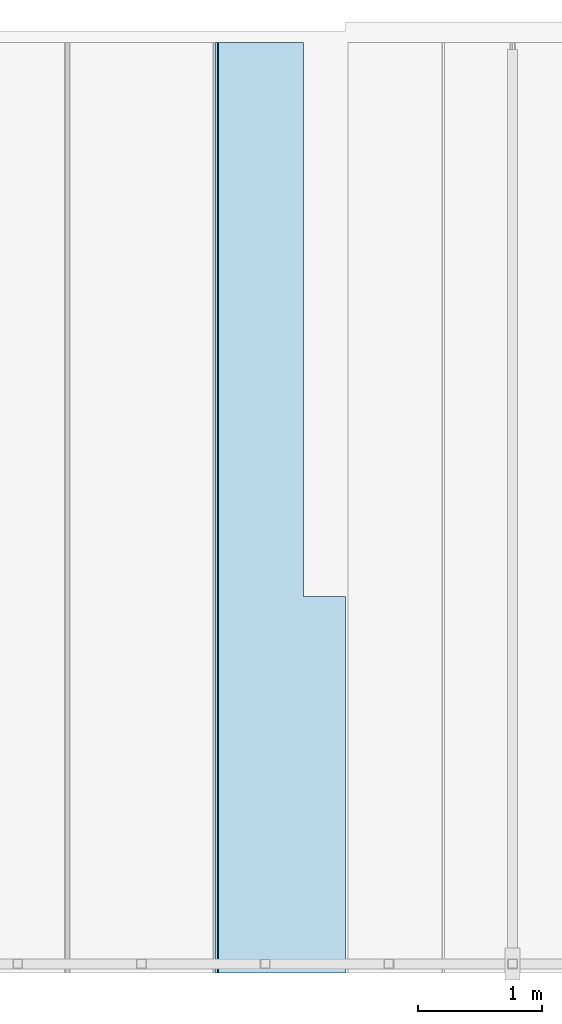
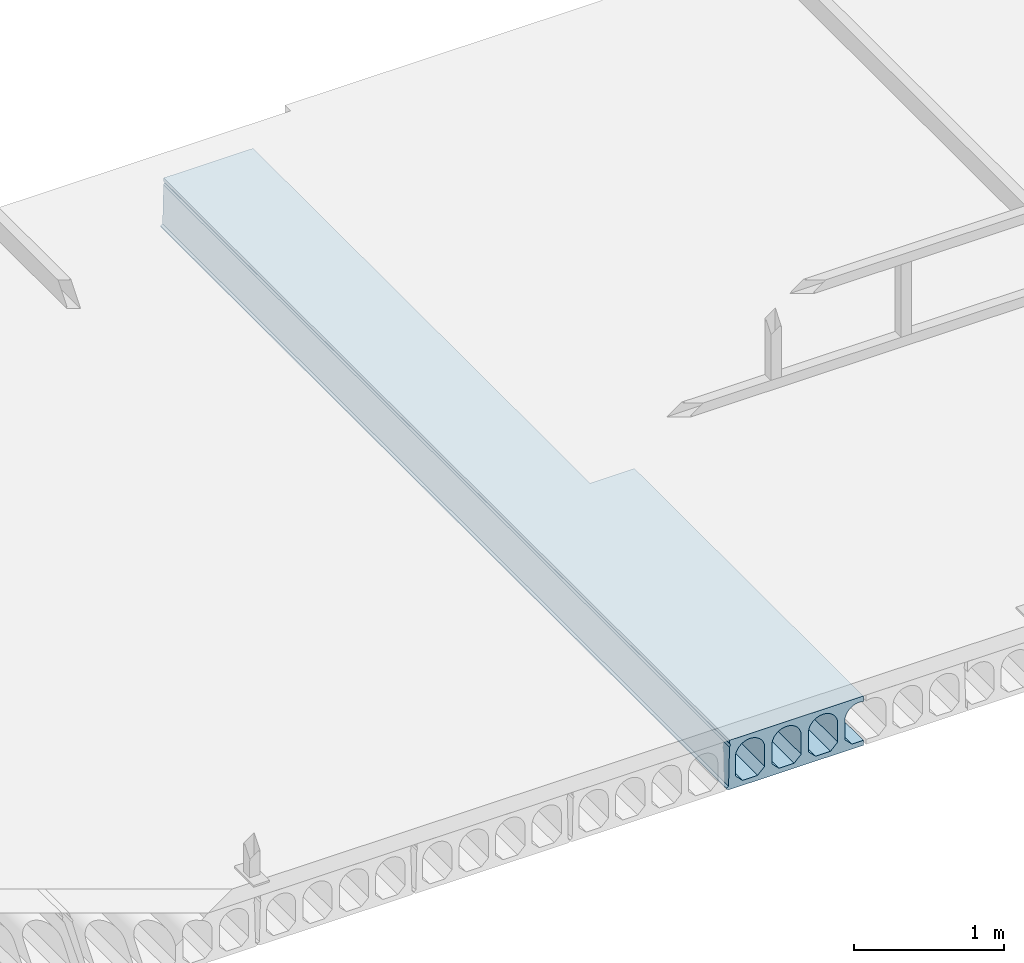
# One storey, part 14 of 20: 1 slab.
"""IFC2X3 building model written with IfcOpenShell, lengths in millimetres."""

import ifcopenshell
import ifcopenshell.guid

model = None  # the IFC model being written
_history = None  # IfcOwnerHistory: only IFC2X3 demands one
_inside = {}  # id of a spatial element -> (the spatial element, [elements in it])
_under = {}  # id of a project, library or spatial element -> (it, [spatial elements below it])
_declared = {}  # id of a project -> (the project, [libraries it declares])
_typed = {}  # id of a type object -> (the type object, [elements of that type])
_made_of = {}  # id of a material, layer set ... -> (it, [elements and type objects made of it])


def new_model(schema):
    """Start an empty IFC model of exactly this schema.

    Asked for "IFC4X3", IfcOpenShell would pick the latest addendum, in which some entities
    have other attributes; the version numbers below select the first issue.
    IFC2X3 requires an IfcOwnerHistory on every rooted entity: one is made here for all.
    """
    global model, _history
    if schema == "IFC4X3":
        model = ifcopenshell.file(schema_version=(4, 3, 0, 0))
    else:
        model = ifcopenshell.file(schema=schema)
    _inside.clear()
    _under.clear()
    _declared.clear()
    _typed.clear()
    _made_of.clear()
    _history = None
    if model.schema == "IFC2X3":
        org = make("IfcOrganization", Name="unknown")
        user = make(
            "IfcPersonAndOrganization",
            ThePerson=make("IfcPerson", FamilyName="unknown"),
            TheOrganization=org,
        )
        app = make(
            "IfcApplication",
            ApplicationDeveloper=org,
            Version="unknown",
            ApplicationFullName="unknown",
            ApplicationIdentifier="unknown",
        )
        _history = make(
            "IfcOwnerHistory",
            OwningUser=user,
            OwningApplication=app,
            ChangeAction="ADDED",
            CreationDate=0,
        )
    return model


def make(cls, **values):
    """One entity of the class cls with the attributes given. An attribute that is None is left unset."""
    return model.create_entity(
        cls, **{name: value for name, value in values.items() if value is not None}
    )


def entity(cls, *values):
    """Any entity or typed value of the class cls, its attributes in the order of the schema. None: left unset."""
    e = model.create_entity(cls)
    for i, value in enumerate(values):
        if value is not None:
            e[i] = value
    return e


def rooted(cls, **values):
    """An entity with a GlobalId (a new one), such as an element, a storey or a relation."""
    return make(cls, GlobalId=ifcopenshell.guid.new(), OwnerHistory=_history, **values)


def si_unit(unit_type, name, prefix=None):
    """IfcSIUnit, for example si_unit("LENGTHUNIT", "METRE", prefix="MILLI")."""
    return make("IfcSIUnit", UnitType=unit_type, Prefix=prefix, Name=name)


def converted_unit(unit_type, name, factor, base, dimensions=None, offset=None):
    """IfcConversionBasedUnit, such as the inch: factor (a typed value) times the base unit."""
    return make(
        "IfcConversionBasedUnit"
        if offset is None
        else "IfcConversionBasedUnitWithOffset",
        ConversionOffset=offset,
        Dimensions=None
        if dimensions is None
        else entity("IfcDimensionalExponents", *dimensions),
        UnitType=unit_type,
        Name=name,
        ConversionFactor=make(
            "IfcMeasureWithUnit", ValueComponent=factor, UnitComponent=base
        ),
    )


def derived_unit(unit_type, elements):
    """IfcDerivedUnit: a product of units, each with its exponent."""
    return make(
        "IfcDerivedUnit",
        Elements=[
            make("IfcDerivedUnitElement", Unit=unit, Exponent=power)
            for unit, power in elements
        ],
        UnitType=unit_type,
    )


def assignment(units):
    """IfcUnitAssignment: the units of a project."""
    return None if units is None else make("IfcUnitAssignment", Units=units)


def point(xyz):
    """IfcCartesianPoint."""
    return None if xyz is None else make("IfcCartesianPoint", Coordinates=xyz)


def direction(xyz):
    """IfcDirection."""
    return None if xyz is None else make("IfcDirection", DirectionRatios=xyz)


def frame(location, z_axis=None, x_axis=None):
    """IfcAxis2Placement3D, a coordinate frame: its origin and axes. An axis left out is left unset."""
    return make(
        "IfcAxis2Placement3D",
        Location=point(location),
        Axis=direction(z_axis),
        RefDirection=direction(x_axis),
    )


def origin_with_axes():
    """The frame at (0, 0, 0) with the z axis (0, 0, 1) and the x axis (1, 0, 0) written out."""
    return frame((0.0, 0.0, 0.0), z_axis=(0.0, 0.0, 1.0), x_axis=(1.0, 0.0, 0.0))


def place(relative_to, where):
    """IfcLocalPlacement: puts the frame where relative to a parent placement (None: the world)."""
    return make(
        "IfcLocalPlacement", PlacementRelTo=relative_to, RelativePlacement=where
    )


def context(
    kind, dimensions, precision=None, world=None, true_north=None, identifier=None
):
    """IfcGeometricRepresentationContext, for example the 3D "Model" context."""
    return make(
        "IfcGeometricRepresentationContext",
        ContextIdentifier=identifier,
        ContextType=kind,
        CoordinateSpaceDimension=dimensions,
        Precision=precision,
        WorldCoordinateSystem=world,
        TrueNorth=true_north,
    )


def subcontext(parent, identifier, kind, view, scale=None):
    """IfcGeometricRepresentationSubContext, for example "Body" below "Model"."""
    return make(
        "IfcGeometricRepresentationSubContext",
        ContextIdentifier=identifier,
        ContextType=kind,
        ParentContext=parent,
        TargetScale=scale,
        TargetView=view,
    )


def project(units=None, contexts=None):
    """IfcProject with its units and contexts."""
    return rooted(
        "IfcProject",
        Name="project",
        RepresentationContexts=contexts,
        UnitsInContext=assignment(units),
    )


def spatial(cls, under=None, at=None, **own):
    """A site, building, storey or space (cls), placed at a placement, below another one or the project."""
    s = rooted(cls, ObjectPlacement=at, **own)
    if under is not None:
        _under.setdefault(under.id(), (under, []))[1].append(s)
    return s


def faces_of(points, faces, orient=None, outer=None):
    """IfcFace entities. A face is a list of loops; a loop is a list of indices into points, from 0.

    orient and outer hold one flag for each loop. By default every Orientation is true, the
    first loop of a face is its IfcFaceOuterBound and the others are IfcFaceBound.
    """
    made = []
    for i, loops in enumerate(faces):
        bounds = []
        for j, loop in enumerate(loops):
            is_outer = j == 0 if outer is None else outer[i][j]
            bounds.append(
                make(
                    "IfcFaceOuterBound" if is_outer else "IfcFaceBound",
                    Bound=make("IfcPolyLoop", Polygon=[points[k] for k in loop]),
                    Orientation=True if orient is None else orient[i][j],
                )
            )
        made.append(make("IfcFace", Bounds=bounds))
    return made


def faceted_brep(points, faces, orient=None, outer=None, voids=None):
    """IfcFacetedBrep: a solid bounded by flat faces; with voids (closed shells), ...WithVoids."""
    shared = [point(p) for p in points]
    hull = make("IfcClosedShell", CfsFaces=faces_of(shared, faces, orient, outer))
    if voids is None:
        return make("IfcFacetedBrep", Outer=hull)
    return make(
        "IfcFacetedBrepWithVoids",
        Outer=hull,
        Voids=[
            make(cls, CfsFaces=faces_of(shared, fs, o, b)) for cls, fs, o, b in voids
        ],
    )


def shape(context_of_items, identifier, shape_type, items):
    """IfcShapeRepresentation: the items that make up one representation, for example the "Body"."""
    return make(
        "IfcShapeRepresentation",
        ContextOfItems=context_of_items,
        RepresentationIdentifier=identifier,
        RepresentationType=shape_type,
        Items=items,
    )


def made_of(thing, what):
    """Note that an element or type object is made of a material, layer set ...; save() writes the relation."""
    if what is not None:
        _made_of.setdefault(what.id(), (what, []))[1].append(thing)
    return thing


def type_object(cls, material=None, **own):
    """A type object (cls), such as IfcWallType, which elements share."""
    return made_of(rooted(cls, **own), material)


def element(
    cls,
    number,
    at=None,
    inside=None,
    cuts=None,
    type_object=None,
    material=None,
    context=None,
    identifier="Body",
    shape_type=None,
    held_by="IfcProductDefinitionShape",
    body=None,
    shapes=None,
    **own,
):
    """One element of the class cls, such as IfcWall. Its Tag is "e" and its number.

    at: its placement. inside: the storey or other place that contains it. cuts: it is an
    opening in that element (IfcRelVoidsElement). A single representation is given by context,
    identifier, shape_type and body (its items); several are given by shapes. held_by: the class
    of the entity that holds the representations. save() writes the other relations.
    """
    e = rooted(cls, Tag="e%d" % number, ObjectPlacement=at, **own)
    if body is not None:
        shapes = [shape(context, identifier, shape_type, body)]
    if shapes is not None:
        e.Representation = make(held_by, Representations=shapes)
    if inside is not None:
        _inside.setdefault(inside.id(), (inside, []))[1].append(e)
    if cuts is not None:
        rooted(
            "IfcRelVoidsElement", RelatingBuildingElement=cuts, RelatedOpeningElement=e
        )
    if type_object is not None:
        _typed.setdefault(type_object.id(), (type_object, []))[1].append(e)
    return made_of(e, material)


def aggregate(whole, parts):
    """IfcRelAggregates: a whole, such as a stair, and the parts it consists of."""
    return rooted("IfcRelAggregates", RelatingObject=whole, RelatedObjects=parts)


def save(model, path):
    """Write the relations noted so far, then the file.

    IfcRelAggregates (storeys below a building ...), IfcRelContainedInSpatialStructure (elements
    in a storey), IfcRelDefinesByType, IfcRelAssociatesMaterial and IfcRelDeclares: one each for
    every whole, place, type object, material and project.
    """
    for whole, parts in _under.values():
        aggregate(whole, parts)
    for where, things in _inside.values():
        rooted(
            "IfcRelContainedInSpatialStructure",
            RelatedElements=things,
            RelatingStructure=where,
        )
    for kind, things in _typed.values():
        rooted("IfcRelDefinesByType", RelatedObjects=things, RelatingType=kind)
    for what, things in _made_of.values():
        rooted("IfcRelAssociatesMaterial", RelatedObjects=things, RelatingMaterial=what)
    for by, libraries in _declared.values():
        rooted("IfcRelDeclares", RelatingContext=by, RelatedDefinitions=libraries)
    model.write(path)


model = new_model("IFC2X3")

# Units and contexts
model_context = context("Model", 3, precision=0.01, world=frame((0.0, 4.29681676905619e-09, 0.0)), true_north=direction((4.01073788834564e-13, 1.0)))
plan_context = context("Plan", 3, precision=0.01, world=frame((0.0, 4.29681676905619e-09, 0.0)), true_north=direction((4.01073788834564e-13, 1.0)))
body_context = subcontext(model_context, "Body", "Model", "MODEL_VIEW")
ifc_project = project(units=[converted_unit("PLANEANGLEUNIT", "DEGREE", entity("IfcPositiveLengthMeasure", 0.0174532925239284), si_unit("PLANEANGLEUNIT", "RADIAN"), dimensions=[0, 0, 0, 0, 0, 0, 0]), si_unit("AREAUNIT", "SQUARE_METRE"), si_unit("LENGTHUNIT", "METRE", prefix="MILLI"), si_unit("MASSUNIT", "GRAM", prefix="KILO"), si_unit("POWERUNIT", "WATT"), si_unit("PRESSUREUNIT", "PASCAL", prefix="KILO"), si_unit("FORCEUNIT", "NEWTON", prefix="KILO"), si_unit("ELECTRICVOLTAGEUNIT", "VOLT"), si_unit("ELECTRICCURRENTUNIT", "AMPERE"), si_unit("THERMODYNAMICTEMPERATUREUNIT", "DEGREE_CELSIUS"), si_unit("TIMEUNIT", "SECOND"), si_unit("VOLUMEUNIT", "CUBIC_METRE"), derived_unit("LINEARVELOCITYUNIT", [(si_unit("LENGTHUNIT", "METRE"), 1), (si_unit("TIMEUNIT", "SECOND"), -1)]), derived_unit("VOLUMETRICFLOWRATEUNIT", [(si_unit("VOLUMEUNIT", "CUBIC_METRE"), 1), (si_unit("TIMEUNIT", "SECOND"), -1)]), derived_unit("THERMALTRANSMITTANCEUNIT", [(si_unit("POWERUNIT", "WATT"), 1), (si_unit("THERMODYNAMICTEMPERATUREUNIT", "KELVIN"), -1), (si_unit("AREAUNIT", "SQUARE_METRE"), -1)]), derived_unit("SOUNDPRESSUREUNIT", [(si_unit("PRESSUREUNIT", "PASCAL"), 1)])], contexts=[model_context, plan_context])

# Site, building, storey
site_placement = place(None, frame((0.0, -4.29681676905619e-09, 0.0), z_axis=(0.0, 0.0, 1.0), x_axis=(1.0, 0.0, 0.0)))
site = spatial("IfcSite", under=ifc_project, at=site_placement, Name="Gardermoen", CompositionType="ELEMENT")
building_placement = place(site_placement, frame((0.0, 4.29681676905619e-09, 0.0), z_axis=(0.0, 0.0, 1.0), x_axis=(1.0, 0.0, 0.0)))
building = spatial("IfcBuilding", under=site, at=building_placement, Name="TS", CompositionType="ELEMENT")
storey_placement = place(building_placement, origin_with_axes())
storey = spatial("IfcBuildingStorey", under=building, at=storey_placement, Name="D", CompositionType="ELEMENT", Elevation=0.0)

# Slab
slab_type = type_object("IfcSlabType", Name="HD400", PredefinedType="NOTDEFINED")
slab_placement = place(storey_placement, frame((605200.000234, 405259.995625, 203600.0), z_axis=(0.0, 0.0, 1.0), x_axis=(0.0, -1.0, 0.0)))
element("IfcSlab", 1, at=slab_placement, inside=storey, type_object=slab_type, Name="HULLDEKKE", ObjectType="HD400", PredefinedType="FLOOR", context=body_context, shape_type="Brep", body=[
    faceted_brep([(7523.49562487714, 450.0, -200.0), (7523.49562487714, 450.0, -160.0), (4480.0, 450.0, -160.0), (4480.0, 450.0, -200.0), (0.0, 110.0, -160.0), (0.0, 110.0, -200.0), (4480.0, 110.0, -200.0), (4480.0, 110.0, -160.0), (0.0, 110.0, 200.0), (0.0, 110.0, 155.848115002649), (4480.0, 110.0, 155.848115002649), (4480.0, 110.0, 200.0), (4480.0, 112.382882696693, 156.55752991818), (4480.0, 121.483108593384, 158.465646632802), (4480.0, 130.709823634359, 159.615755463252), (4480.0, 140.0, 160.0), (4480.0, 149.290176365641, 159.615755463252), (4480.0, 158.516891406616, 158.465646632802), (4480.0, 167.617117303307, 156.55752991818), (4480.0, 176.528690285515, 153.904439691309), (4480.0, 185.190735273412, 150.524499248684), (4480.0, 193.544081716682, 146.440797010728), (4480.0, 201.531667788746, 141.681228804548), (4480.0, 209.098930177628, 136.278307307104), (4480.0, 216.194176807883, 130.268939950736), (4480.0, 222.768939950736, 123.694176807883), (4480.0, 228.778307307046, 116.598930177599), (4480.0, 234.181228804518, 109.031667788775), (4480.0, 238.940797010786, 101.044081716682), (4480.0, 243.024499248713, 92.6907352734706), (4480.0, 246.404439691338, 84.028690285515), (4480.0, 249.057529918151, 75.1171173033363), (4480.0, 250.965646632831, 66.0168914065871), (4480.0, 252.115755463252, 56.7901763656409), (4480.0, 252.5, 47.5), (4480.0, 252.5, -105.0), (4480.0, 197.5, -160.0), (4480.0, 362.5, -160.0), (4480.0, 307.5, -105.0), (4480.0, 307.5, 47.5), (4480.0, 307.884244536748, 56.7901763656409), (4480.0, 309.034353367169, 66.0168914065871), (4480.0, 310.942470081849, 75.1171173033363), (4480.0, 313.595560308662, 84.028690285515), (4480.0, 316.975500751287, 92.6907352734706), (4480.0, 321.059202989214, 101.044081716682), (4480.0, 325.818771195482, 109.031667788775), (4480.0, 331.221692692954, 116.598930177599), (4480.0, 337.231060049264, 123.694176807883), (4480.0, 343.805823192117, 130.268939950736), (4480.0, 350.901069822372, 136.278307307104), (4480.0, 358.468332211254, 141.681228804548), (4480.0, 366.455918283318, 146.440797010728), (4480.0, 374.809264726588, 150.524499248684), (4480.0, 383.471309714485, 153.904439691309), (4480.0, 392.382882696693, 156.55752991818), (4480.0, 401.483108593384, 158.465646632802), (4480.0, 410.709823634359, 159.615755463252), (4480.0, 420.0, 160.0), (4480.0, 429.290176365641, 159.615755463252), (4480.0, 438.516891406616, 158.465646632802), (4480.0, 447.617117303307, 156.55752991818), (4480.0, 450.0, 155.848115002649), (4480.0, 450.0, 200.0), (7523.49562487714, 450.0, 155.848115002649), (7523.49562487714, 450.0, 200.0), (7523.49562487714, 362.5, -160.0), (7523.49562487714, 307.5, -105.0), (7523.49562487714, 307.5, 47.5), (7523.49562487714, 307.884244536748, 56.7901763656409), (7523.49562487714, 309.034353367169, 66.0168914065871), (7523.49562487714, 310.942470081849, 75.1171173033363), (7523.49562487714, 313.595560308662, 84.028690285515), (7523.49562487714, 316.975500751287, 92.6907352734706), (7523.49562487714, 321.059202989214, 101.044081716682), (7523.49562487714, 325.818771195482, 109.031667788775), (7523.49562487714, 331.221692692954, 116.598930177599), (7523.49562487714, 337.231060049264, 123.694176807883), (7523.49562487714, 343.805823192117, 130.268939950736), (7523.49562487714, 350.901069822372, 136.278307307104), (7523.49562487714, 358.468332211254, 141.681228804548), (7523.49562487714, 366.455918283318, 146.440797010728), (7523.49562487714, 374.809264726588, 150.524499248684), (7523.49562487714, 383.471309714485, 153.904439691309), (7523.49562487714, 392.382882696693, 156.55752991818), (7523.49562487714, 401.483108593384, 158.465646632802), (7523.49562487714, 410.709823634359, 159.615755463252), (7523.49562487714, 420.0, 160.0), (7523.49562487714, 429.290176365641, 159.615755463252), (7523.49562487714, 438.516891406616, 158.465646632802), (7523.49562487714, 447.617117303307, 156.55752991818), (7523.49562487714, 82.5, -160.0), (7523.49562487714, 27.5, -105.0), (0.0, 27.5, -105.0), (0.0, 82.5, -160.0), (7523.49562487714, 27.5, 47.5), (0.0, 27.5, 47.5), (7523.49562487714, 27.8842445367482, 56.7901763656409), (0.0, 27.8842445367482, 56.7901763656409), (7523.49562487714, 29.0343533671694, 66.0168914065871), (0.0, 29.0343533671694, 66.0168914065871), (7523.49562487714, 30.942470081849, 75.1171173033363), (0.0, 30.942470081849, 75.1171173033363), (7523.49562487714, 33.5955603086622, 84.028690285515), (0.0, 33.5955603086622, 84.028690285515), (7523.49562487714, 36.9755007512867, 92.6907352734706), (0.0, 36.9755007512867, 92.6907352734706), (7523.49562487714, 41.0592029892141, 101.044081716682), (0.0, 41.0592029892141, 101.044081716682), (7523.49562487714, 45.8187711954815, 109.031667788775), (0.0, 45.8187711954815, 109.031667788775), (7523.49562487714, 51.2216926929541, 116.598930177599), (0.0, 51.2216926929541, 116.598930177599), (7523.49562487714, 57.2310600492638, 123.694176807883), (0.0, 57.2310600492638, 123.694176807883), (7523.49562487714, 63.8058231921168, 130.268939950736), (0.0, 63.8058231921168, 130.268939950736), (7523.49562487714, 70.9010698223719, 136.278307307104), (0.0, 70.9010698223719, 136.278307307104), (7523.49562487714, 78.4683322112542, 141.681228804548), (0.0, 78.4683322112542, 141.681228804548), (7523.49562487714, 86.4559182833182, 146.440797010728), (0.0, 86.4559182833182, 146.440797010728), (7523.49562487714, 94.8092647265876, 150.524499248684), (0.0, 94.8092647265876, 150.524499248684), (7523.49562487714, 103.471309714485, 153.904439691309), (0.0, 103.471309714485, 153.904439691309), (7523.49562487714, 112.382882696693, 156.55752991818), (7523.49562487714, 121.483108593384, 158.465646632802), (7523.49562487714, 130.709823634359, 159.615755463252), (7523.49562487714, 140.0, 160.0), (7523.49562487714, 149.290176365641, 159.615755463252), (7523.49562487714, 158.516891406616, 158.465646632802), (7523.49562487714, 167.617117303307, 156.55752991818), (7523.49562487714, 176.528690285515, 153.904439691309), (7523.49562487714, 185.190735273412, 150.524499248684), (7523.49562487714, 193.544081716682, 146.440797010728), (7523.49562487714, 201.531667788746, 141.681228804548), (7523.49562487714, 209.098930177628, 136.278307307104), (7523.49562487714, 216.194176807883, 130.268939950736), (7523.49562487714, 222.768939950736, 123.694176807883), (7523.49562487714, 228.778307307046, 116.598930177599), (7523.49562487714, 234.181228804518, 109.031667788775), (7523.49562487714, 238.940797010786, 101.044081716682), (7523.49562487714, 243.024499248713, 92.6907352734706), (7523.49562487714, 246.404439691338, 84.028690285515), (7523.49562487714, 249.057529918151, 75.1171173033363), (7523.49562487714, 250.965646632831, 66.0168914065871), (7523.49562487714, 252.115755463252, 56.7901763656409), (7523.49562487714, 252.5, 47.5), (7523.49562487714, 252.5, -105.0), (7523.49562487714, 197.5, -160.0), (7523.49562487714, -583.380004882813, -200.0), (0.0, -583.380004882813, -200.0), (7523.49562487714, -600.0, -190.0), (0.0, -600.0, -190.0), (7523.49562487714, -600.0, -180.0), (0.0, -600.0, -180.0), (7523.49562487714, -585.0, -170.0), (0.0, -585.0, -170.0), (7523.49562487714, -577.5, 145.0), (0.0, -577.5, 145.0), (7523.49562487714, -570.0, 160.0), (0.0, -570.0, 160.0), (7523.49562487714, -577.5, 175.0), (0.0, -577.5, 175.0), (7523.49562487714, -577.5, 200.0), (0.0, -577.5, 200.0), (7523.49562487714, -27.5, -105.0), (7523.49562487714, -82.5, -160.0), (0.0, -82.5, -160.0), (0.0, -27.5, -105.0), (7523.49562487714, -27.5, 47.5), (0.0, -27.5, 47.5), (7523.49562487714, -27.8842445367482, 56.7901763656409), (0.0, -27.8842445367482, 56.7901763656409), (7523.49562487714, -29.0343533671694, 66.0168914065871), (0.0, -29.0343533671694, 66.0168914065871), (7523.49562487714, -30.942470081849, 75.1171173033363), (0.0, -30.942470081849, 75.1171173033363), (7523.49562487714, -33.5955603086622, 84.028690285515), (0.0, -33.5955603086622, 84.028690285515), (7523.49562487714, -36.9755007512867, 92.6907352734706), (0.0, -36.9755007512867, 92.6907352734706), (7523.49562487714, -41.0592029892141, 101.044081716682), (0.0, -41.0592029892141, 101.044081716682), (7523.49562487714, -45.8187711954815, 109.031667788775), (0.0, -45.8187711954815, 109.031667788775), (7523.49562487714, -51.2216926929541, 116.598930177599), (0.0, -51.2216926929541, 116.598930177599), (7523.49562487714, -57.2310600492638, 123.694176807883), (0.0, -57.2310600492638, 123.694176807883), (7523.49562487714, -63.8058231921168, 130.268939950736), (0.0, -63.8058231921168, 130.268939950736), (7523.49562487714, -70.9010698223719, 136.278307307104), (0.0, -70.9010698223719, 136.278307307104), (7523.49562487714, -78.4683322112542, 141.681228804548), (0.0, -78.4683322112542, 141.681228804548), (7523.49562487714, -86.4559182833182, 146.440797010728), (0.0, -86.4559182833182, 146.440797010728), (7523.49562487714, -94.8092647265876, 150.524499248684), (0.0, -94.8092647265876, 150.524499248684), (7523.49562487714, -103.471309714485, 153.904439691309), (0.0, -103.471309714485, 153.904439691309), (7523.49562487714, -112.382882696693, 156.55752991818), (0.0, -112.382882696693, 156.55752991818), (7523.49562487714, -121.483108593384, 158.465646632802), (0.0, -121.483108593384, 158.465646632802), (7523.49562487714, -130.709823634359, 159.615755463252), (0.0, -130.709823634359, 159.615755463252), (7523.49562487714, -140.0, 160.0), (0.0, -140.0, 160.0), (7523.49562487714, -149.290176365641, 159.615755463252), (0.0, -149.290176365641, 159.615755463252), (7523.49562487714, -158.516891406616, 158.465646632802), (0.0, -158.516891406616, 158.465646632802), (7523.49562487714, -167.617117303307, 156.55752991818), (0.0, -167.617117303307, 156.55752991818), (7523.49562487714, -176.528690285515, 153.904439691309), (0.0, -176.528690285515, 153.904439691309), (7523.49562487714, -185.190735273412, 150.524499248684), (0.0, -185.190735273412, 150.524499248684), (7523.49562487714, -193.544081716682, 146.440797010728), (0.0, -193.544081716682, 146.440797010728), (7523.49562487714, -201.531667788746, 141.681228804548), (0.0, -201.531667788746, 141.681228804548), (7523.49562487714, -209.098930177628, 136.278307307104), (0.0, -209.098930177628, 136.278307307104), (7523.49562487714, -216.194176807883, 130.268939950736), (0.0, -216.194176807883, 130.268939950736), (7523.49562487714, -222.768939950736, 123.694176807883), (0.0, -222.768939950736, 123.694176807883), (7523.49562487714, -228.778307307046, 116.598930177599), (0.0, -228.778307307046, 116.598930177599), (7523.49562487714, -234.181228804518, 109.031667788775), (0.0, -234.181228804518, 109.031667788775), (7523.49562487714, -238.940797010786, 101.044081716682), (0.0, -238.940797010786, 101.044081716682), (7523.49562487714, -243.024499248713, 92.6907352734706), (0.0, -243.024499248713, 92.6907352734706), (7523.49562487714, -246.404439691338, 84.028690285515), (0.0, -246.404439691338, 84.028690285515), (7523.49562487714, -249.057529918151, 75.1171173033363), (0.0, -249.057529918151, 75.1171173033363), (7523.49562487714, -250.965646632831, 66.0168914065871), (0.0, -250.965646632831, 66.0168914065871), (7523.49562487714, -252.115755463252, 56.7901763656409), (0.0, -252.115755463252, 56.7901763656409), (7523.49562487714, -252.5, 47.5), (0.0, -252.5, 47.5), (7523.49562487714, -252.5, -105.0), (0.0, -252.5, -105.0), (7523.49562487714, -197.5, -160.0), (0.0, -197.5, -160.0), (0.0, -362.5, -160.0), (0.0, -477.5, -160.0), (0.0, -532.5, -105.0), (0.0, -532.5, 47.5), (0.0, -532.115755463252, 56.7901763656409), (0.0, -530.965646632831, 66.0168914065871), (0.0, -529.057529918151, 75.1171173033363), (0.0, -526.404439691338, 84.028690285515), (0.0, -523.024499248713, 92.6907352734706), (0.0, -518.940797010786, 101.044081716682), (0.0, -514.181228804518, 109.031667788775), (0.0, -508.778307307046, 116.598930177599), (0.0, -502.768939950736, 123.694176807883), (0.0, -496.194176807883, 130.268939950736), (0.0, -489.098930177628, 136.278307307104), (0.0, -481.531667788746, 141.681228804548), (0.0, -473.544081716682, 146.440797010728), (0.0, -465.190735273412, 150.524499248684), (0.0, -456.528690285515, 153.904439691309), (0.0, -447.617117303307, 156.55752991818), (0.0, -438.516891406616, 158.465646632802), (0.0, -429.290176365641, 159.615755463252), (0.0, -420.0, 160.0), (0.0, -410.709823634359, 159.615755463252), (0.0, -401.483108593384, 158.465646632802), (0.0, -392.382882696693, 156.55752991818), (0.0, -383.471309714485, 153.904439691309), (0.0, -374.809264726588, 150.524499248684), (0.0, -366.455918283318, 146.440797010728), (0.0, -358.468332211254, 141.681228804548), (0.0, -350.901069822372, 136.278307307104), (0.0, -343.805823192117, 130.268939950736), (0.0, -337.231060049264, 123.694176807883), (0.0, -331.221692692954, 116.598930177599), (0.0, -325.818771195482, 109.031667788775), (0.0, -321.059202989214, 101.044081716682), (0.0, -316.975500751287, 92.6907352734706), (0.0, -313.595560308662, 84.028690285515), (0.0, -310.942470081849, 75.1171173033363), (0.0, -309.034353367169, 66.0168914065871), (0.0, -307.884244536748, 56.7901763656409), (0.0, -307.5, 47.5), (0.0, -307.5, -105.0), (7523.49562487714, -307.5, -105.0), (7523.49562487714, -362.5, -160.0), (7523.49562487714, -307.5, 47.5), (7523.49562487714, -307.884244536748, 56.7901763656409), (7523.49562487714, -309.034353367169, 66.0168914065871), (7523.49562487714, -310.942470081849, 75.1171173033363), (7523.49562487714, -313.595560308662, 84.028690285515), (7523.49562487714, -316.975500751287, 92.6907352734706), (7523.49562487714, -321.059202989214, 101.044081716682), (7523.49562487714, -325.818771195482, 109.031667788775), (7523.49562487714, -331.221692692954, 116.598930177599), (7523.49562487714, -337.231060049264, 123.694176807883), (7523.49562487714, -343.805823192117, 130.268939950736), (7523.49562487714, -350.901069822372, 136.278307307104), (7523.49562487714, -358.468332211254, 141.681228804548), (7523.49562487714, -366.455918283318, 146.440797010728), (7523.49562487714, -374.809264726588, 150.524499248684), (7523.49562487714, -383.471309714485, 153.904439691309), (7523.49562487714, -392.382882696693, 156.55752991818), (7523.49562487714, -401.483108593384, 158.465646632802), (7523.49562487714, -410.709823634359, 159.615755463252), (7523.49562487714, -420.0, 160.0), (7523.49562487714, -429.290176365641, 159.615755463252), (7523.49562487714, -438.516891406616, 158.465646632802), (7523.49562487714, -447.617117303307, 156.55752991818), (7523.49562487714, -456.528690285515, 153.904439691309), (7523.49562487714, -465.190735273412, 150.524499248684), (7523.49562487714, -473.544081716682, 146.440797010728), (7523.49562487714, -481.531667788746, 141.681228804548), (7523.49562487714, -489.098930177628, 136.278307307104), (7523.49562487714, -496.194176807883, 130.268939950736), (7523.49562487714, -502.768939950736, 123.694176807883), (7523.49562487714, -508.778307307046, 116.598930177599), (7523.49562487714, -514.181228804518, 109.031667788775), (7523.49562487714, -518.940797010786, 101.044081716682), (7523.49562487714, -523.024499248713, 92.6907352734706), (7523.49562487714, -526.404439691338, 84.028690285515), (7523.49562487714, -529.057529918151, 75.1171173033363), (7523.49562487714, -530.965646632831, 66.0168914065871), (7523.49562487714, -532.115755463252, 56.7901763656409), (7523.49562487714, -532.5, 47.5), (7523.49562487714, -532.5, -105.0), (7523.49562487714, -477.5, -160.0)], [[[0, 1, 2, 3]], [[4, 5, 6, 7]], [[8, 9, 10, 11]], [[11, 10, 12, 13, 14, 15, 16, 17, 18, 19, 20, 21, 22, 23, 24, 25, 26, 27, 28, 29, 30, 31, 32, 33, 34, 35, 36, 7, 6, 3, 2, 37, 38, 39, 40, 41, 42, 43, 44, 45, 46, 47, 48, 49, 50, 51, 52, 53, 54, 55, 56, 57, 58, 59, 60, 61, 62, 63]], [[64, 65, 63, 62]], [[1, 66, 37, 2]], [[66, 67, 38, 37]], [[67, 68, 39, 38]], [[68, 69, 40, 39]], [[69, 70, 41, 40]], [[70, 71, 42, 41]], [[71, 72, 43, 42]], [[72, 73, 44, 43]], [[73, 74, 45, 44]], [[74, 75, 46, 45]], [[75, 76, 47, 46]], [[76, 77, 48, 47]], [[77, 78, 49, 48]], [[78, 79, 50, 49]], [[79, 80, 51, 50]], [[80, 81, 52, 51]], [[81, 82, 53, 52]], [[82, 83, 54, 53]], [[83, 84, 55, 54]], [[84, 85, 56, 55]], [[85, 86, 57, 56]], [[86, 87, 58, 57]], [[87, 88, 59, 58]], [[88, 89, 60, 59]], [[89, 90, 61, 60]], [[90, 64, 62, 61]], [[91, 92, 93, 94]], [[92, 95, 96, 93]], [[95, 97, 98, 96]], [[97, 99, 100, 98]], [[99, 101, 102, 100]], [[101, 103, 104, 102]], [[103, 105, 106, 104]], [[105, 107, 108, 106]], [[107, 109, 110, 108]], [[109, 111, 112, 110]], [[111, 113, 114, 112]], [[113, 115, 116, 114]], [[115, 117, 118, 116]], [[117, 119, 120, 118]], [[119, 121, 122, 120]], [[121, 123, 124, 122]], [[123, 125, 126, 124]], [[125, 127, 12, 10, 9, 126]], [[127, 128, 13, 12]], [[128, 129, 14, 13]], [[129, 130, 15, 14]], [[130, 131, 16, 15]], [[131, 132, 17, 16]], [[132, 133, 18, 17]], [[133, 134, 19, 18]], [[134, 135, 20, 19]], [[135, 136, 21, 20]], [[136, 137, 22, 21]], [[137, 138, 23, 22]], [[138, 139, 24, 23]], [[139, 140, 25, 24]], [[140, 141, 26, 25]], [[141, 142, 27, 26]], [[142, 143, 28, 27]], [[143, 144, 29, 28]], [[144, 145, 30, 29]], [[145, 146, 31, 30]], [[146, 147, 32, 31]], [[147, 148, 33, 32]], [[148, 149, 34, 33]], [[149, 150, 35, 34]], [[150, 151, 36, 35]], [[151, 91, 94, 4, 7, 36]], [[152, 0, 3, 6, 5, 153]], [[154, 152, 153, 155]], [[156, 154, 155, 157]], [[158, 156, 157, 159]], [[160, 158, 159, 161]], [[162, 160, 161, 163]], [[164, 162, 163, 165]], [[166, 164, 165, 167]], [[65, 166, 167, 8, 11, 63]], [[168, 169, 170, 171]], [[172, 168, 171, 173]], [[174, 172, 173, 175]], [[176, 174, 175, 177]], [[178, 176, 177, 179]], [[180, 178, 179, 181]], [[182, 180, 181, 183]], [[184, 182, 183, 185]], [[186, 184, 185, 187]], [[188, 186, 187, 189]], [[190, 188, 189, 191]], [[192, 190, 191, 193]], [[194, 192, 193, 195]], [[196, 194, 195, 197]], [[198, 196, 197, 199]], [[200, 198, 199, 201]], [[202, 200, 201, 203]], [[204, 202, 203, 205]], [[206, 204, 205, 207]], [[208, 206, 207, 209]], [[210, 208, 209, 211]], [[212, 210, 211, 213]], [[214, 212, 213, 215]], [[216, 214, 215, 217]], [[218, 216, 217, 219]], [[220, 218, 219, 221]], [[222, 220, 221, 223]], [[224, 222, 223, 225]], [[226, 224, 225, 227]], [[228, 226, 227, 229]], [[230, 228, 229, 231]], [[232, 230, 231, 233]], [[234, 232, 233, 235]], [[236, 234, 235, 237]], [[238, 236, 237, 239]], [[240, 238, 239, 241]], [[242, 240, 241, 243]], [[244, 242, 243, 245]], [[246, 244, 245, 247]], [[248, 246, 247, 249]], [[250, 248, 249, 251]], [[252, 250, 251, 253]], [[169, 252, 253, 170]], [[9, 8, 167, 165, 163, 161, 159, 157, 155, 153, 5, 4, 94, 93, 96, 98, 100, 102, 104, 106, 108, 110, 112, 114, 116, 118, 120, 122, 124, 126], [170, 253, 251, 249, 247, 245, 243, 241, 239, 237, 235, 233, 231, 229, 227, 225, 223, 221, 219, 217, 215, 213, 211, 209, 207, 205, 203, 201, 199, 197, 195, 193, 191, 189, 187, 185, 183, 181, 179, 177, 175, 173, 171], [254, 255, 256, 257, 258, 259, 260, 261, 262, 263, 264, 265, 266, 267, 268, 269, 270, 271, 272, 273, 274, 275, 276, 277, 278, 279, 280, 281, 282, 283, 284, 285, 286, 287, 288, 289, 290, 291, 292, 293, 294, 295, 296]], [[297, 298, 254, 296]], [[299, 297, 296, 295]], [[300, 299, 295, 294]], [[301, 300, 294, 293]], [[302, 301, 293, 292]], [[303, 302, 292, 291]], [[304, 303, 291, 290]], [[305, 304, 290, 289]], [[306, 305, 289, 288]], [[307, 306, 288, 287]], [[308, 307, 287, 286]], [[309, 308, 286, 285]], [[310, 309, 285, 284]], [[311, 310, 284, 283]], [[312, 311, 283, 282]], [[313, 312, 282, 281]], [[314, 313, 281, 280]], [[315, 314, 280, 279]], [[316, 315, 279, 278]], [[317, 316, 278, 277]], [[318, 317, 277, 276]], [[319, 318, 276, 275]], [[320, 319, 275, 274]], [[321, 320, 274, 273]], [[322, 321, 273, 272]], [[323, 322, 272, 271]], [[324, 323, 271, 270]], [[325, 324, 270, 269]], [[326, 325, 269, 268]], [[327, 326, 268, 267]], [[328, 327, 267, 266]], [[329, 328, 266, 265]], [[330, 329, 265, 264]], [[331, 330, 264, 263]], [[332, 331, 263, 262]], [[333, 332, 262, 261]], [[334, 333, 261, 260]], [[335, 334, 260, 259]], [[336, 335, 259, 258]], [[337, 336, 258, 257]], [[338, 337, 257, 256]], [[339, 338, 256, 255]], [[298, 339, 255, 254]], [[152, 154, 156, 158, 160, 162, 164, 166, 65, 64, 90, 89, 88, 87, 86, 85, 84, 83, 82, 81, 80, 79, 78, 77, 76, 75, 74, 73, 72, 71, 70, 69, 68, 67, 66, 1, 0], [151, 150, 149, 148, 147, 146, 145, 144, 143, 142, 141, 140, 139, 138, 137, 136, 135, 134, 133, 132, 131, 130, 129, 128, 127, 125, 123, 121, 119, 117, 115, 113, 111, 109, 107, 105, 103, 101, 99, 97, 95, 92, 91], [172, 174, 176, 178, 180, 182, 184, 186, 188, 190, 192, 194, 196, 198, 200, 202, 204, 206, 208, 210, 212, 214, 216, 218, 220, 222, 224, 226, 228, 230, 232, 234, 236, 238, 240, 242, 244, 246, 248, 250, 252, 169, 168], [299, 300, 301, 302, 303, 304, 305, 306, 307, 308, 309, 310, 311, 312, 313, 314, 315, 316, 317, 318, 319, 320, 321, 322, 323, 324, 325, 326, 327, 328, 329, 330, 331, 332, 333, 334, 335, 336, 337, 338, 339, 298, 297]]], orient=[[False], [False], [False], [False], [False], [False], [False], [False], [False], [False], [False], [False], [False], [False], [False], [False], [False], [False], [False], [False], [False], [False], [False], [False], [False], [False], [False], [False], [False], [False], [False], [False], [False], [False], [False], [False], [False], [False], [False], [False], [False], [False], [False], [False], [False], [False], [False], [False], [False], [False], [False], [False], [False], [False], [False], [False], [False], [False], [False], [False], [False], [False], [False], [False], [False], [False], [False], [False], [False], [False], [False], [False], [False], [False], [False], [False], [False], [False], [False], [False], [False], [False], [False], [False], [False], [False], [False], [False], [False], [False], [False], [False], [False], [False], [False], [False], [False], [False], [False], [False], [False], [False], [False], [False], [False], [False], [False], [False], [False], [False], [False], [False], [False], [False], [False], [False], [False], [False], [False], [False], [False], [False], [False], [False], [False], [False], [False, False, False], [False], [False], [False], [False], [False], [False], [False], [False], [False], [False], [False], [False], [False], [False], [False], [False], [False], [False], [False], [False], [False], [False], [False], [False], [False], [False], [False], [False], [False], [False], [False], [False], [False], [False], [False], [False], [False], [False], [False], [False], [False], [False], [False], [False, False, False, False]]),
])

save(model, "model.ifc")
